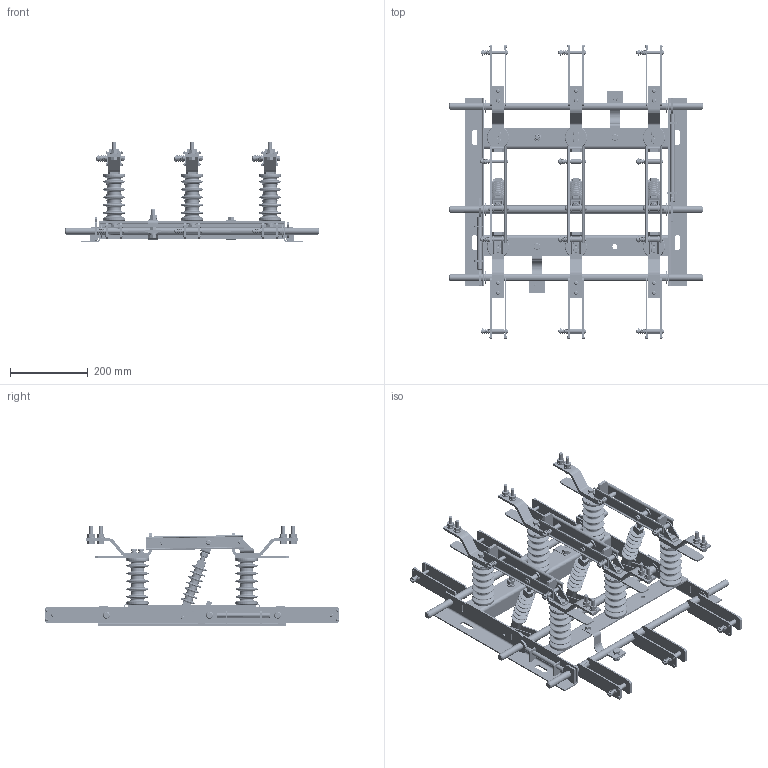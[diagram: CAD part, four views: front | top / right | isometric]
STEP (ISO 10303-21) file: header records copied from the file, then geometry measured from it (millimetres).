
FILE_DESCRIPTION (( 'STEP AP214' ), '1' );
FILE_NAME ('Ðàçúåäèíèòåëü âûñîêîâîëüòíûé ÐÂÇ-10400-III-ÓÕË2.STEP', '2023-02-03T12:15:12', ( '' ), ( '' ), 'SwSTEP 2.0', 'SolidWorks 2018', '' );
FILE_SCHEMA (( 'AUTOMOTIVE_DESIGN' ));
Length unit declared in the file: millimetre
Products named in the file (1): Ðàçúåäèíèòåëü âûñîêîâîëüòíûé ÐÂÇ-10400-III-ÓÕË2
Bounding box: 650 x 757.04 x 257.23 mm (x, y, z)
Volume: 4002414.8 mm3; surface area: 1392517.3 mm2
Topology: 1 solids, 4 shells, 3093 faces, 7720 edges, 4876 vertices
Faces by surface type: plane 1816, cylinder 824, cone 259, torus 158, sphere 24, bspline 12
Full cylindrical faces by diameter (mm): 4 x18, 8 x54, 8.2 x2, 8.376 x4, 8.4 x12, 8.5 x18, 8.619 x1, 8.808 x5, 8.872 x2, 9 x6, 9.328 x3, 9.908 x2, 10 x19, 10.102 x4, 10.5 x8, 11 x4, 11.491 x3, 11.822 x5, 11.86 x5, 12 x25, 12.1 x4, 12.35 x6, 13 x10, 13.264 x5, 13.662 x5, 13.664 x5, 16 x18, 18 x6, 19.016 x4, 19.25 x4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
Entity records: 160861 total; most frequent: CARTESIAN_POINT 57509, DIRECTION 14620, ORIENTED_EDGE 13252, EDGE_CURVE 6626, AXIS2_PLACEMENT_3D 5542, VERTEX_POINT 4585, EDGE_LOOP 4401, FACE_OUTER_BOUND 3646
